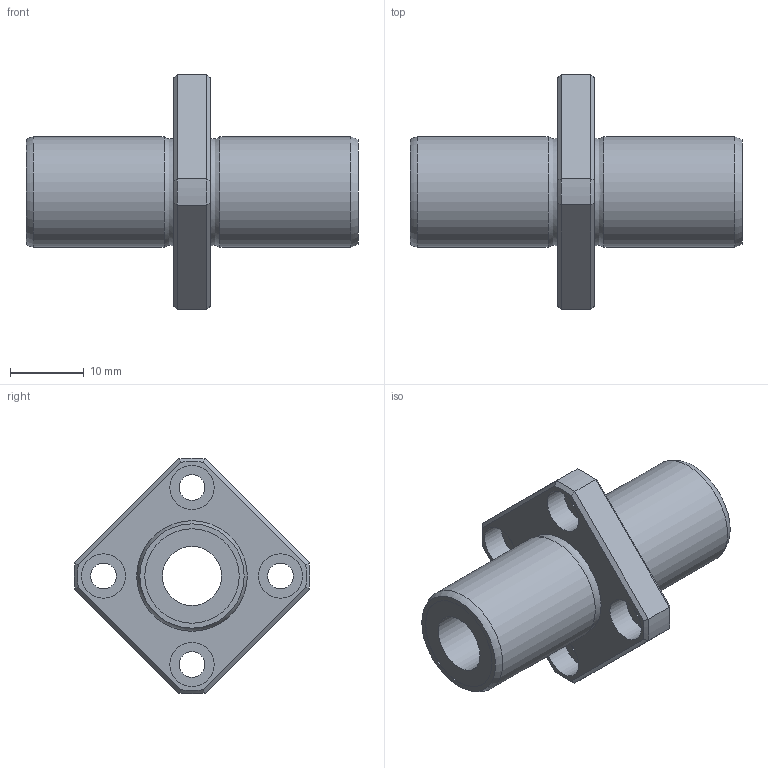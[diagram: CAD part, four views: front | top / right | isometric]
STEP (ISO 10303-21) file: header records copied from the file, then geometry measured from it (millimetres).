
FILE_DESCRIPTION((''),'2;1');
FILE_NAME('D:\製品 (図面)\カタログ用3D\リニアベアリング関連\STEP形式\LFDKC\LFDKC8.stp','2010-06-03T09:36:44',('Tsuchiya'),(''),'Autodesk Inventor 10','Autodesk Inventor 10','');
FILE_SCHEMA(('AUTOMOTIVE_DESIGN { 1 0 10303 214 1 1 1 1 }'));
Length unit declared in the file: millimetre
Products named in the file (1): LFDKC8
Bounding box: 45 x 31.98 x 31.98 mm (x, y, z)
Volume: 7358.7 mm3; surface area: 4792.4 mm2
Topology: 1 solids, 1 shells, 51 faces, 103 edges, 62 vertices
Faces by surface type: plane 22, cylinder 17, cone 8, torus 2, bspline 2
Full cylindrical faces by diameter (mm): 3.5 x4, 6 x4, 8 x1, 12.8 x2, 15 x2
Entity records: 1413 total; most frequent: CARTESIAN_POINT 372, DIRECTION 216, ORIENTED_EDGE 172, AXIS2_PLACEMENT_3D 96, EDGE_CURVE 86, EDGE_LOOP 86, VERTEX_POINT 62, FACE_OUTER_BOUND 51
